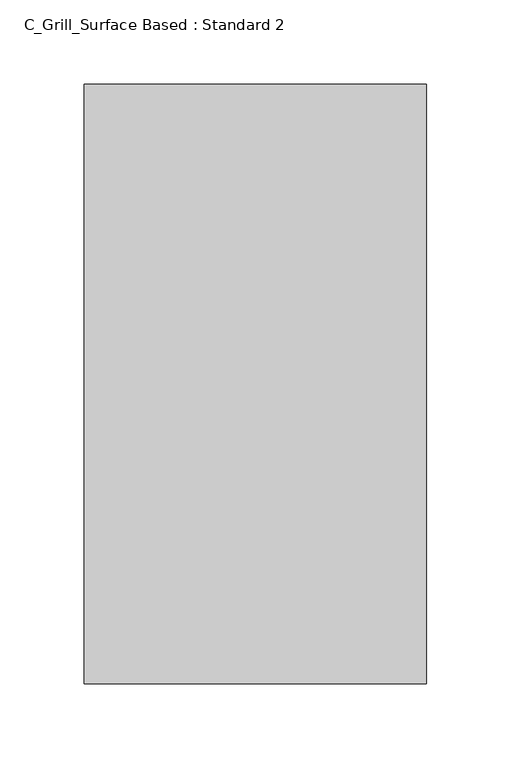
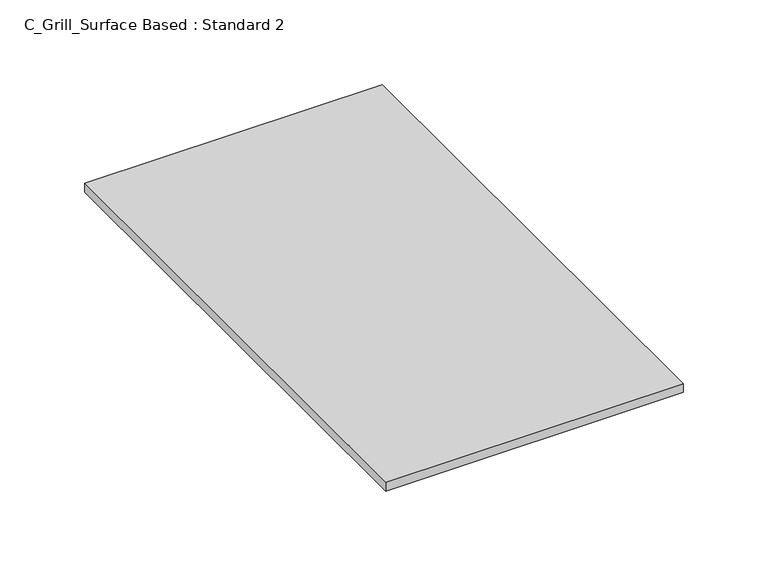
"""IFC4 building model written with IfcOpenShell, lengths in millimetres: air terminal geometry, C_Grill_Surface Based : Standard 2."""

from ifc_helpers import new_model, si_unit, origin, origin_with_axes, place, context, project, spatial, polyline, outline, extrude, source, transform, mapped, element, save


def c_grill_surface_based_standard_2_45ac2899(model_context):
    return source(origin(), model_context, "Body", "SweptSolid", [
        extrude(outline(polyline([(101.6, 177.8), (101.6, -177.8), (-101.6, -177.8), (-101.6, 177.8), (101.6, 177.8)])), origin_with_axes(), (0.0, 0.0, 1.0), 6.35),
    ])


if __name__ == "__main__":
    model = new_model("IFC4")
    model_context = context("Model", 3, world=origin())
    ifc_project = project(units=[si_unit("LENGTHUNIT", "METRE", prefix="MILLI")], contexts=[model_context])
    site = spatial("IfcSite", under=ifc_project)
    building = spatial("IfcBuilding", under=site)
    placement = place(None, origin())
    c_grill_surface_based_standard_2_shape = c_grill_surface_based_standard_2_45ac2899(model_context)
    element("IfcAirTerminal", 1, ObjectType="C_Grill_Surface Based : Standard 2", at=placement, inside=building, context=model_context, shape_type="MappedRepresentation", body=[
        mapped(c_grill_surface_based_standard_2_shape, transform((0.0, 0.0, 0.0), x_axis=(1.0, 0.0, 0.0), y_axis=(0.0, 1.0, 0.0), z_axis=(0.0, 0.0, 1.0))),
    ])
    save(model, "model.ifc")
